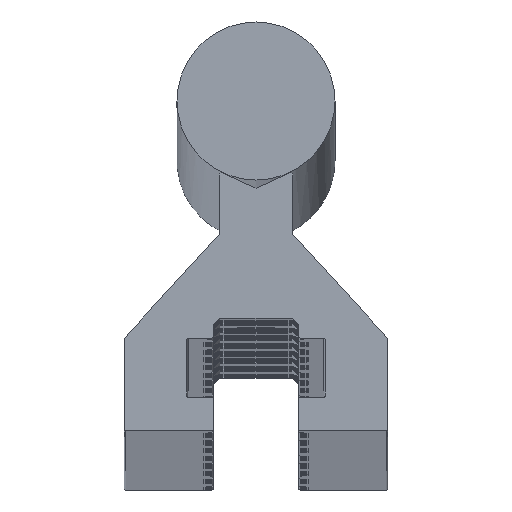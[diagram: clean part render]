
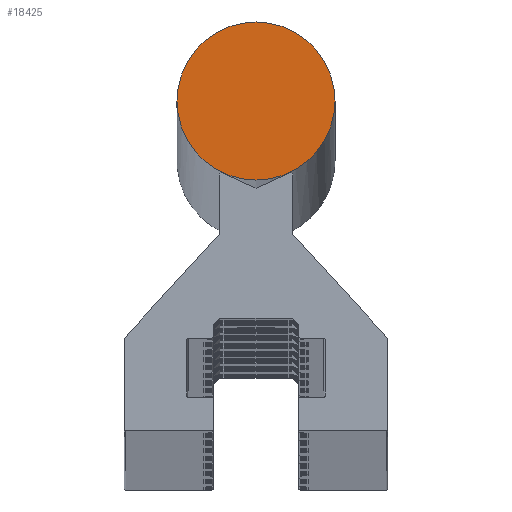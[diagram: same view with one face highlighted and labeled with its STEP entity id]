
A CAD part, top view. The second image highlights one B-rep face of the part: STEP entity #18425.
In plain terms, the highlighted planar face has unit normal (0, 0, 1).
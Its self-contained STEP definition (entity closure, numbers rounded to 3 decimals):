
#696 = AXIS2_PLACEMENT_3D ( 'NONE', #31426, #14002, #44811 ) ;
#6002 = CIRCLE ( 'NONE', #23926, 6. ) ;
#7725 = EDGE_CURVE ( 'NONE', #44850, #44850, #6002, .T. ) ;
#12461 = EDGE_LOOP ( 'NONE', ( #47696 ) ) ;
#14002 = DIRECTION ( 'NONE',  ( 0., 0., 1. ) ) ;
#18425 = ADVANCED_FACE ( 'NONE', ( #51962 ), #31628, .T. ) ;
#23926 = AXIS2_PLACEMENT_3D ( 'NONE', #36982, #36918, #36845 ) ;
#31426 = CARTESIAN_POINT ( 'NONE',  ( 0., 25., 1. ) ) ;
#31628 = PLANE ( 'NONE',  #696 ) ;
#35439 = CARTESIAN_POINT ( 'NONE',  ( 6., 25., 1. ) ) ;
#36845 = DIRECTION ( 'NONE',  ( 1., 0., 0. ) ) ;
#36918 = DIRECTION ( 'NONE',  ( 0., 0., 1. ) ) ;
#36982 = CARTESIAN_POINT ( 'NONE',  ( 0., 25., 1. ) ) ;
#44811 = DIRECTION ( 'NONE',  ( 1., 0., 0. ) ) ;
#44850 = VERTEX_POINT ( 'NONE', #35439 ) ;
#47696 = ORIENTED_EDGE ( 'NONE', *, *, #7725, .T. ) ;
#51962 = FACE_OUTER_BOUND ( 'NONE', #12461, .T. ) ;
